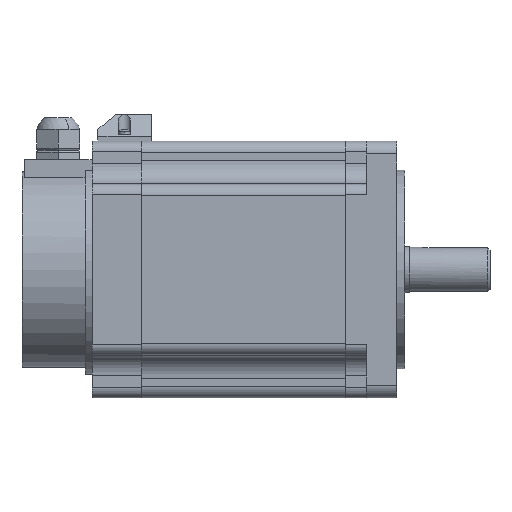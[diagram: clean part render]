
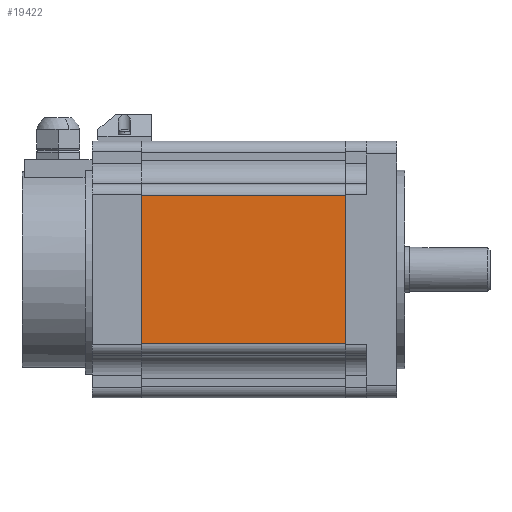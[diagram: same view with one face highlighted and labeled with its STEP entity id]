
A CAD part, left-side view. The second image highlights one B-rep face of the part: STEP entity #19422.
In plain terms, the highlighted planar face has unit normal (-1, 0, 0).
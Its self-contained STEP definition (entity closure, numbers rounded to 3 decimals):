
#53 = DIRECTION ( 'NONE',  ( 0., 0., -1. ) ) ;
#271 = ORIENTED_EDGE ( 'NONE', *, *, #25227, .F. ) ;
#947 = AXIS2_PLACEMENT_3D ( 'NONE', #21916, #21495, #6632 ) ;
#3517 = VERTEX_POINT ( 'NONE', #14695 ) ;
#4069 = VECTOR ( 'NONE', #7447, 1000. ) ;
#4192 = VERTEX_POINT ( 'NONE', #13277 ) ;
#5298 = ORIENTED_EDGE ( 'NONE', *, *, #8068, .T. ) ;
#5646 = ORIENTED_EDGE ( 'NONE', *, *, #8427, .F. ) ;
#6343 = CARTESIAN_POINT ( 'NONE',  ( -55., -31.7, 87.5 ) ) ;
#6632 = DIRECTION ( 'NONE',  ( 0., 1., 0. ) ) ;
#6958 = DIRECTION ( 'NONE',  ( 0., -1., 0. ) ) ;
#7447 = DIRECTION ( 'NONE',  ( 0., -1., 0. ) ) ;
#7605 = ORIENTED_EDGE ( 'NONE', *, *, #12172, .T. ) ;
#8068 = EDGE_CURVE ( 'NONE', #3517, #4192, #12966, .T. ) ;
#8242 = VECTOR ( 'NONE', #25541, 1000. ) ;
#8427 = EDGE_CURVE ( 'NONE', #23270, #22721, #14621, .T. ) ;
#9155 = PLANE ( 'NONE',  #947 ) ;
#9410 = CARTESIAN_POINT ( 'NONE',  ( -55., 31.7, 87.5 ) ) ;
#10960 = FACE_OUTER_BOUND ( 'NONE', #25288, .T. ) ;
#11296 = CARTESIAN_POINT ( 'NONE',  ( -55., 31.7, 0. ) ) ;
#12172 = EDGE_CURVE ( 'NONE', #4192, #22721, #17471, .T. ) ;
#12429 = VECTOR ( 'NONE', #6958, 1000. ) ;
#12966 = LINE ( 'NONE', #19281, #16750 ) ;
#13277 = CARTESIAN_POINT ( 'NONE',  ( -55., 31.7, 0. ) ) ;
#13897 = LINE ( 'NONE', #9410, #4069 ) ;
#14621 = LINE ( 'NONE', #6343, #8242 ) ;
#14695 = CARTESIAN_POINT ( 'NONE',  ( -55., 31.7, 87.5 ) ) ;
#16446 = CARTESIAN_POINT ( 'NONE',  ( -55., -31.7, 87.5 ) ) ;
#16750 = VECTOR ( 'NONE', #53, 1000. ) ;
#17471 = LINE ( 'NONE', #11296, #12429 ) ;
#19281 = CARTESIAN_POINT ( 'NONE',  ( -55., 31.7, 87.5 ) ) ;
#19312 = CARTESIAN_POINT ( 'NONE',  ( -55., -31.7, 0. ) ) ;
#19422 = ADVANCED_FACE ( 'NONE', ( #10960 ), #9155, .F. ) ;
#21495 = DIRECTION ( 'NONE',  ( 1., 0., 0. ) ) ;
#21916 = CARTESIAN_POINT ( 'NONE',  ( -55., 31.7, 87.5 ) ) ;
#22721 = VERTEX_POINT ( 'NONE', #19312 ) ;
#23270 = VERTEX_POINT ( 'NONE', #16446 ) ;
#25227 = EDGE_CURVE ( 'NONE', #3517, #23270, #13897, .T. ) ;
#25288 = EDGE_LOOP ( 'NONE', ( #7605, #5646, #271, #5298 ) ) ;
#25541 = DIRECTION ( 'NONE',  ( 0., 0., -1. ) ) ;
